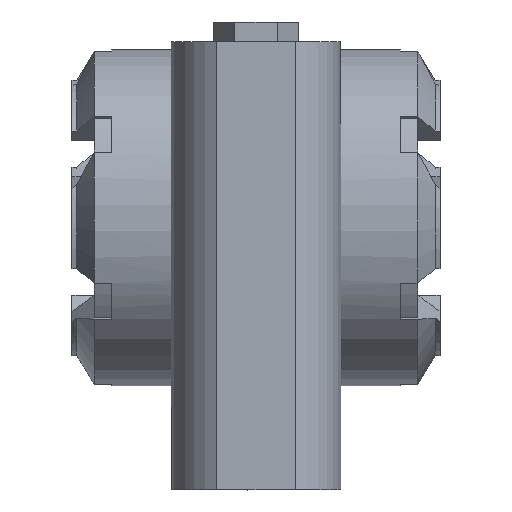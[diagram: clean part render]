
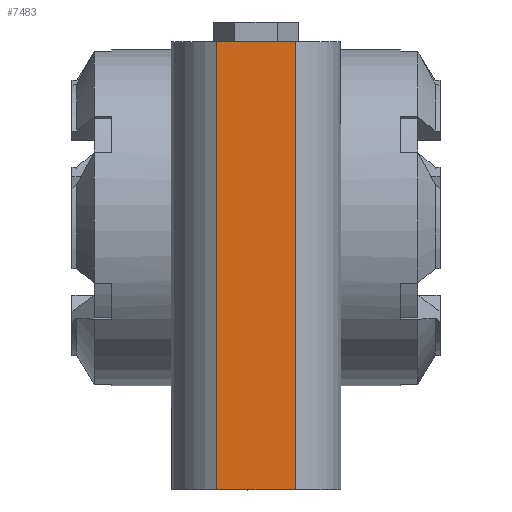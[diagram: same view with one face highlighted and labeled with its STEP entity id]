
A CAD part, front view. The second image highlights one B-rep face of the part: STEP entity #7483.
In plain terms, the highlighted planar face has unit normal (0, -1, 0).
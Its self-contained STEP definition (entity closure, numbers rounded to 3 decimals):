
#3035=LINE('',#44025,#5830);
#3037=LINE('',#44034,#5832);
#3039=LINE('',#44042,#5834);
#3041=LINE('',#44050,#5836);
#5830=VECTOR('',#31597,1.);
#5832=VECTOR('',#31605,1.);
#5834=VECTOR('',#31613,1.);
#5836=VECTOR('',#31621,1.);
#7483=ADVANCED_FACE('',(#9488),#8208,.F.);
#8208=PLANE('',#26891);
#9488=FACE_OUTER_BOUND('',#10960,.T.);
#10960=EDGE_LOOP('',(#18199,#18200,#18201,#18202));
#18199=ORIENTED_EDGE('',*,*,#24164,.F.);
#18200=ORIENTED_EDGE('',*,*,#24160,.T.);
#18201=ORIENTED_EDGE('',*,*,#24172,.T.);
#18202=ORIENTED_EDGE('',*,*,#24168,.T.);
#20567=VERTEX_POINT('',#44026);
#20568=VERTEX_POINT('',#44027);
#20571=VERTEX_POINT('',#44035);
#20574=VERTEX_POINT('',#44043);
#24160=EDGE_CURVE('',#20567,#20568,#3035,.T.);
#24164=EDGE_CURVE('',#20567,#20571,#3037,.T.);
#24168=EDGE_CURVE('',#20574,#20571,#3039,.T.);
#24172=EDGE_CURVE('',#20568,#20574,#3041,.T.);
#26891=AXIS2_PLACEMENT_3D('',#46616,#31679,#31680);
#31597=DIRECTION('',(0.,0.,-1.));
#31605=DIRECTION('',(1.,0.,0.));
#31613=DIRECTION('',(0.,0.,1.));
#31621=DIRECTION('',(1.,0.,0.));
#31679=DIRECTION('',(0.,1.,0.));
#31680=DIRECTION('',(1.,0.,0.));
#44025=CARTESIAN_POINT('',(-12.247,-38.5,-102.5));
#44026=CARTESIAN_POINT('',(-12.247,-38.5,55.));
#44027=CARTESIAN_POINT('',(-12.247,-38.5,-85.));
#44034=CARTESIAN_POINT('',(0.,-38.5,55.));
#44035=CARTESIAN_POINT('',(12.247,-38.5,55.));
#44042=CARTESIAN_POINT('',(12.247,-38.5,-102.5));
#44043=CARTESIAN_POINT('',(12.247,-38.5,-85.));
#44050=CARTESIAN_POINT('',(0.,-38.5,-85.));
#46616=CARTESIAN_POINT('',(0.,-38.5,-20.));
